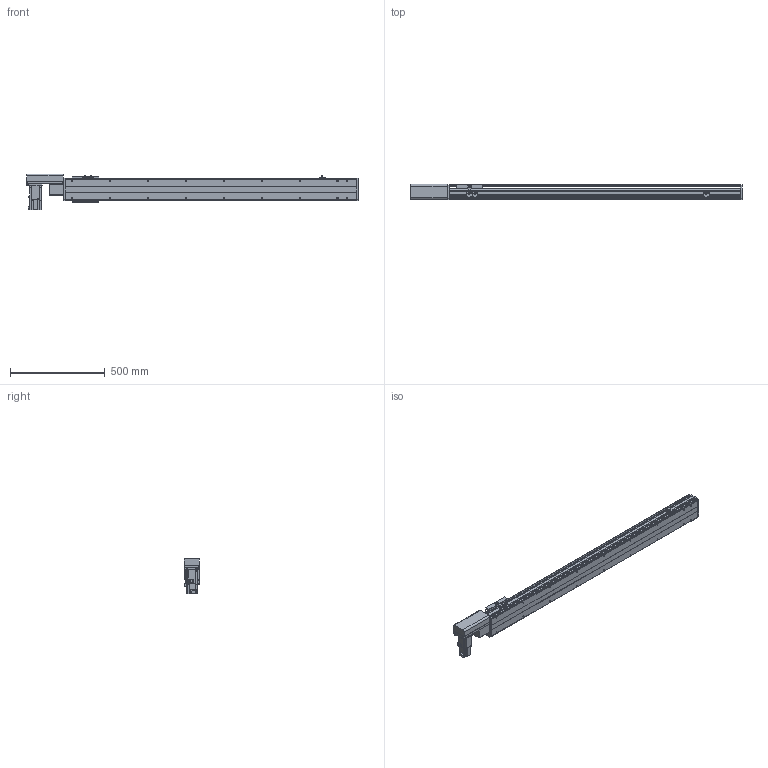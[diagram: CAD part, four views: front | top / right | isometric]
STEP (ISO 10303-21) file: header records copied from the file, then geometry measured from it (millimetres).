
FILE_DESCRIPTION( ( 'STEP AP214' ), '1' );
FILE_NAME( 'x:/temp/worker_27/temp/exporttempdir_6708_14_gzmC5/format_0/PBS120-P40-S1250-R-T40-C1-N(0).stp', '2022-06-06T00:07:25', ( 'License CC BY-ND 4.0' ), ( 'CADENAS' ), ' ', 'PARTsolutions', ' ' );
FILE_SCHEMA( ( 'AUTOMOTIVE_DESIGN { 1 0 10303 214 1 1 1 1 }' ) );
Length unit declared in the file: millimetre
Products named in the file (7): PBS120-P40-S1250-R-T40-C1-N(0); _PBS120-S1250()_body; _PBS120T-R_motors; _T40-p1; _PBS120_sliser; _PBS120_plant; _PBS120_sensor
Assembly tree (8 placements, depth 2):
  PBS120-P40-S1250-R-T40-C1-N(0)
    _PBS120-S1250()_body
    _PBS120T-R_motors
    _T40-p1
    _PBS120_sliser
    _PBS120_plant
    _PBS120_sensor  x3
Bounding box: 1751 x 83 x 189.7 mm (x, y, z)
Volume: 6774822.7 mm3; surface area: 1343444.3 mm2
Topology: 8 solids, 8 shells, 834 faces, 2166 edges, 1393 vertices
Faces by surface type: plane 551, cylinder 231, cone 50, torus 2
Full cylindrical faces by diameter (mm): 2.459 x6, 3.242 x4, 4 x2, 4.134 x4, 4.5 x10, 4.917 x22, 5.5 x11, 6 x2, 6.6 x1, 7 x2, 8.5 x4, 9 x4, 12 x1, 14 x1, 30 x2, 40 x1, 50 x2
Entity records: 27492 total; most frequent: DIRECTION 3764, CARTESIAN_POINT 3695, ORIENTED_EDGE 3514, EDGE_CURVE 1757, AXIS2_PLACEMENT_3D 1268, LINE 1228, VECTOR 1228, VERTEX_POINT 1199
